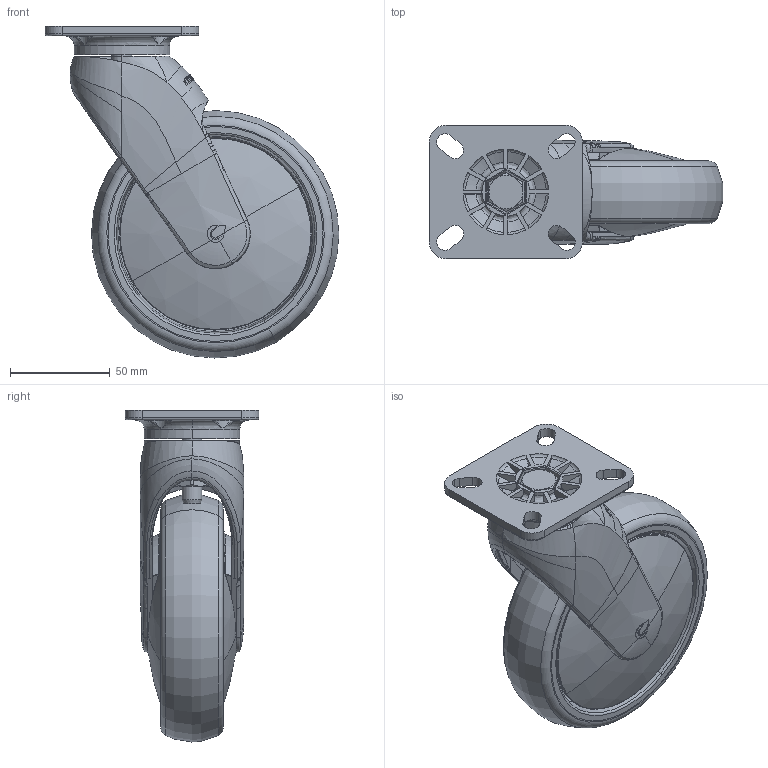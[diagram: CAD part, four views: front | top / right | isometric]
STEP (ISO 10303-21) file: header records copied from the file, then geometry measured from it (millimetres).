
FILE_DESCRIPTION (( 'STEP AP203' ), '1' );
FILE_NAME ('301688_STEP.STEP', '2011-06-21T05:33:26', ( '' ), ( '' ), 'SwSTEP 2.0', 'SolidWorks 2011', '' );
FILE_SCHEMA (( 'CONFIG_CONTROL_DESIGN' ));
Length unit declared in the file: millimetre
Products named in the file (1): 301688_STEP
Bounding box: 147.39 x 67.02 x 166.61 mm (x, y, z)
Surface area: 107158.6 mm2 (no closed solid volume)
Topology: 0 solids, 15 shells, 469 faces, 1637 edges, 1129 vertices
Faces by surface type: bspline 232, plane 90, cylinder 60, cone 47, torus 36, sphere 4
Entity records: 104762 total; most frequent: CARTESIAN_POINT 93595, ORIENTED_EDGE 2747, EDGE_CURVE 1628, DIRECTION 1360, VERTEX_POINT 1129, B_SPLINE_CURVE_WITH_KNOTS 1013, AXIS2_PLACEMENT_3D 558, EDGE_LOOP 513
